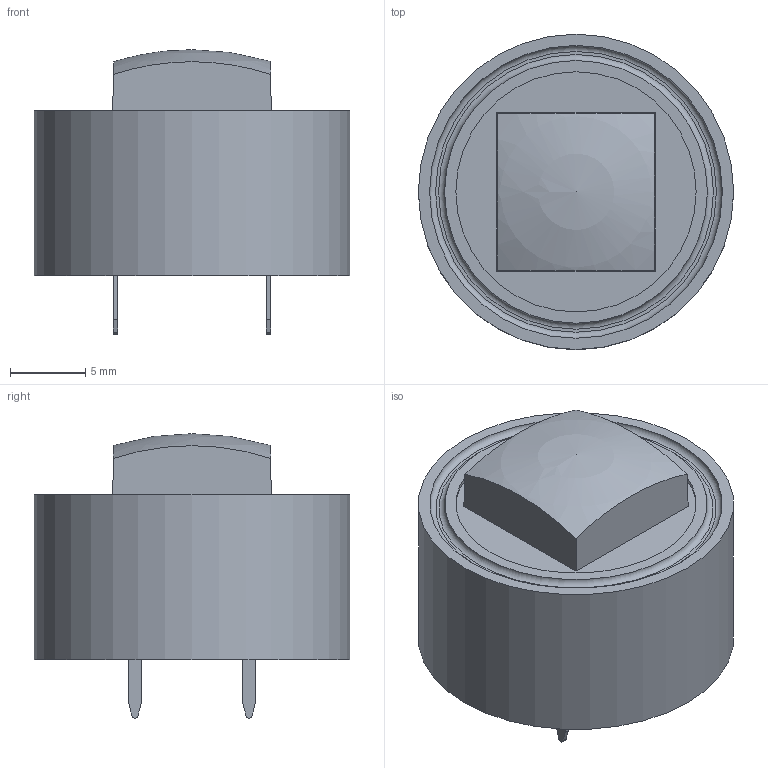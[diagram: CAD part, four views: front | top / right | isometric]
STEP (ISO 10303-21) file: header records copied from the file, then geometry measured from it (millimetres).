
FILE_DESCRIPTION(/* description */ (''),/* implementation_level */ '2;1');
FILE_NAME(/* name */ 'C:\Users\cgh.MEC\Desktop\Traceparts - 3D programserie\STEP filer\TH\5GTH9+1TS+1TW.stp',/* time_stamp */ '2016-02-16T10:17:06+01:00',/* author */ ('cgh'),/* organization */ (''),/* preprocessor_version */ 'ST-DEVELOPER v15.2',/* originating_system */ 'Autodesk Inventor 2014',/* authorisation */ '');
FILE_SCHEMA (('AUTOMOTIVE_DESIGN { 1 0 10303 214 3 1 1 }'));
Length unit declared in the file: centimetre
Products named in the file (1): cgh
Bounding box: 21 x 21 x 18.95 mm (x, y, z)
Volume: 1951.8 mm3; surface area: 3698.1 mm2
Topology: 1 solids, 1 shells, 1028 faces, 2905 edges, 1904 vertices
Faces by surface type: plane 639, cylinder 149, bspline 140, torus 59, cone 35, sphere 6
Full cylindrical faces by diameter (mm): 0.9 x1, 1 x3, 2.8 x1, 4.73 x1, 6.5 x1, 7.2 x1, 7.44 x1, 16 x1, 18 x1, 21 x1
Entity records: 37031 total; most frequent: CARTESIAN_POINT 10212, ORIENTED_EDGE 5742, DIRECTION 4815, EDGE_CURVE 2863, VERTEX_POINT 1892, LINE 1791, VECTOR 1791, AXIS2_PLACEMENT_3D 1512
